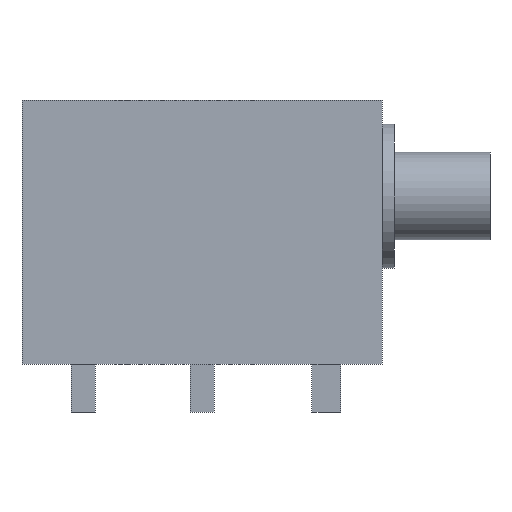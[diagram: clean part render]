
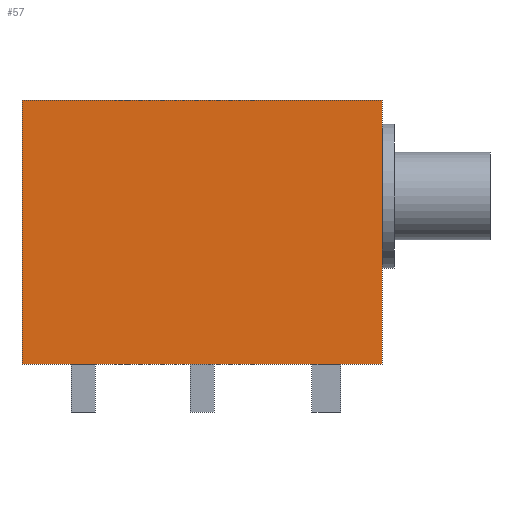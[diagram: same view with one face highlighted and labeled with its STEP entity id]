
A CAD part, left-side view. The second image highlights one B-rep face of the part: STEP entity #57.
In plain terms, the highlighted planar face has unit normal (-1, 0, 0).
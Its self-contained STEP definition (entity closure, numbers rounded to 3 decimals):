
#21 = EDGE_CURVE('',#22,#24,#26,.T.);
#22 = VERTEX_POINT('',#23);
#23 = CARTESIAN_POINT('',(-3.75,7.5,0.));
#24 = VERTEX_POINT('',#25);
#25 = CARTESIAN_POINT('',(-3.75,7.5,11.));
#26 = LINE('',#27,#28);
#27 = CARTESIAN_POINT('',(-3.75,7.5,0.));
#28 = VECTOR('',#29,1.);
#29 = DIRECTION('',(0.,0.,1.));
#57 = ADVANCED_FACE('',(#58),#83,.T.);
#58 = FACE_BOUND('',#59,.T.);
#59 = EDGE_LOOP('',(#60,#70,#76,#77));
#60 = ORIENTED_EDGE('',*,*,#61,.T.);
#61 = EDGE_CURVE('',#62,#64,#66,.T.);
#62 = VERTEX_POINT('',#63);
#63 = CARTESIAN_POINT('',(-3.75,-7.5,0.));
#64 = VERTEX_POINT('',#65);
#65 = CARTESIAN_POINT('',(-3.75,-7.5,11.));
#66 = LINE('',#67,#68);
#67 = CARTESIAN_POINT('',(-3.75,-7.5,0.));
#68 = VECTOR('',#69,1.);
#69 = DIRECTION('',(0.,0.,1.));
#70 = ORIENTED_EDGE('',*,*,#71,.T.);
#71 = EDGE_CURVE('',#64,#24,#72,.T.);
#72 = LINE('',#73,#74);
#73 = CARTESIAN_POINT('',(-3.75,-7.5,11.));
#74 = VECTOR('',#75,1.);
#75 = DIRECTION('',(0.,1.,0.));
#76 = ORIENTED_EDGE('',*,*,#21,.F.);
#77 = ORIENTED_EDGE('',*,*,#78,.F.);
#78 = EDGE_CURVE('',#62,#22,#79,.T.);
#79 = LINE('',#80,#81);
#80 = CARTESIAN_POINT('',(-3.75,-7.5,0.));
#81 = VECTOR('',#82,1.);
#82 = DIRECTION('',(0.,1.,0.));
#83 = PLANE('',#84);
#84 = AXIS2_PLACEMENT_3D('',#85,#86,#87);
#85 = CARTESIAN_POINT('',(-3.75,-7.5,0.));
#86 = DIRECTION('',(-1.,0.,0.));
#87 = DIRECTION('',(0.,1.,0.));
